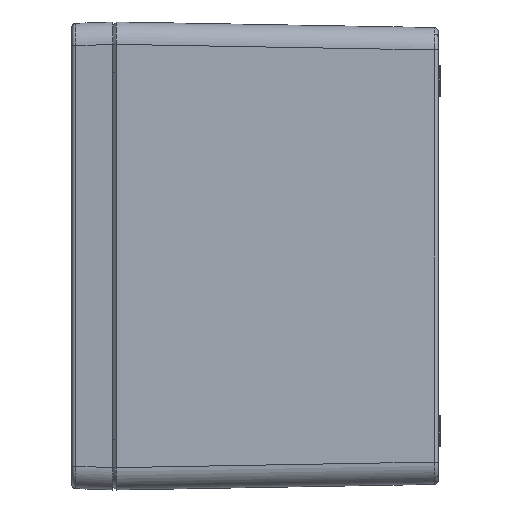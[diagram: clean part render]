
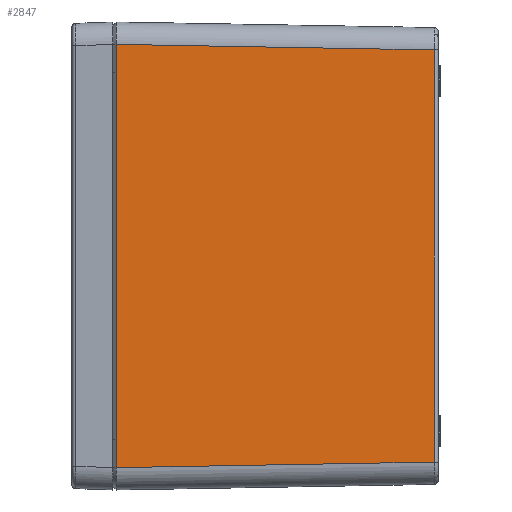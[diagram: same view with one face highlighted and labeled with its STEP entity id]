
A CAD part, left-side view. The second image highlights one B-rep face of the part: STEP entity #2847.
In plain terms, the highlighted planar face has unit normal (-1, -0.018, 0) as drawn and (1, 0, 0.017) by its records, which use the part's own axes.
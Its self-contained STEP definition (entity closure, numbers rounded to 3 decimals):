
#2847 = ADVANCED_FACE ( 'NONE', ( #56951 ), #15073, .T. ) ;
#3426 = LINE ( 'NONE', #21579, #20847 ) ;
#8680 = VERTEX_POINT ( 'NONE', #46684 ) ;
#9852 = CARTESIAN_POINT ( 'NONE',  ( 200., -115., 0. ) ) ;
#12346 = DIRECTION ( 'NONE',  ( 0., 1., 0. ) ) ;
#15073 = PLANE ( 'NONE',  #56417 ) ;
#15875 = EDGE_CURVE ( 'NONE', #8680, #39141, #32863, .T. ) ;
#17973 = CARTESIAN_POINT ( 'NONE',  ( 200.003, -104.005, -0.192 ) ) ;
#18265 = CARTESIAN_POINT ( 'NONE',  ( 200., 104.002, 0. ) ) ;
#20847 = VECTOR ( 'NONE', #12346, 1000. ) ;
#21365 = CARTESIAN_POINT ( 'NONE',  ( 200., 104.002, 0. ) ) ;
#21579 = CARTESIAN_POINT ( 'NONE',  ( 197.273, 0., 156.235 ) ) ;
#22900 = LINE ( 'NONE', #17973, #23372 ) ;
#23372 = VECTOR ( 'NONE', #45401, 1000. ) ;
#25450 = EDGE_CURVE ( 'NONE', #43689, #50607, #3426, .T. ) ;
#25665 = DIRECTION ( 'NONE',  ( -0.017, -0.017, 1. ) ) ;
#32863 = LINE ( 'NONE', #46719, #39532 ) ;
#37563 = CARTESIAN_POINT ( 'NONE',  ( 197.273, 101.275, 156.235 ) ) ;
#38260 = VECTOR ( 'NONE', #25665, 1000. ) ;
#38381 = CARTESIAN_POINT ( 'NONE',  ( 197.273, -101.275, 156.235 ) ) ;
#39141 = VERTEX_POINT ( 'NONE', #18265 ) ;
#39532 = VECTOR ( 'NONE', #51631, 1000. ) ;
#39931 = EDGE_LOOP ( 'NONE', ( #49245, #43423, #42450, #53431 ) ) ;
#42450 = ORIENTED_EDGE ( 'NONE', *, *, #49432, .T. ) ;
#43423 = ORIENTED_EDGE ( 'NONE', *, *, #15875, .T. ) ;
#43689 = VERTEX_POINT ( 'NONE', #38381 ) ;
#44830 = EDGE_CURVE ( 'NONE', #8680, #43689, #22900, .T. ) ;
#45401 = DIRECTION ( 'NONE',  ( -0.017, 0.017, 1. ) ) ;
#46684 = CARTESIAN_POINT ( 'NONE',  ( 200., -104.002, 0. ) ) ;
#46719 = CARTESIAN_POINT ( 'NONE',  ( 200., -115., 0. ) ) ;
#49154 = DIRECTION ( 'NONE',  ( 0.017, 0., -1. ) ) ;
#49245 = ORIENTED_EDGE ( 'NONE', *, *, #44830, .F. ) ;
#49432 = EDGE_CURVE ( 'NONE', #39141, #50607, #54291, .T. ) ;
#50607 = VERTEX_POINT ( 'NONE', #37563 ) ;
#51631 = DIRECTION ( 'NONE',  ( 0., 1., 0. ) ) ;
#53431 = ORIENTED_EDGE ( 'NONE', *, *, #25450, .F. ) ;
#54291 = LINE ( 'NONE', #21365, #38260 ) ;
#56417 = AXIS2_PLACEMENT_3D ( 'NONE', #9852, #57248, #49154 ) ;
#56951 = FACE_OUTER_BOUND ( 'NONE', #39931, .T. ) ;
#57248 = DIRECTION ( 'NONE',  ( 1., 0., 0.017 ) ) ;
